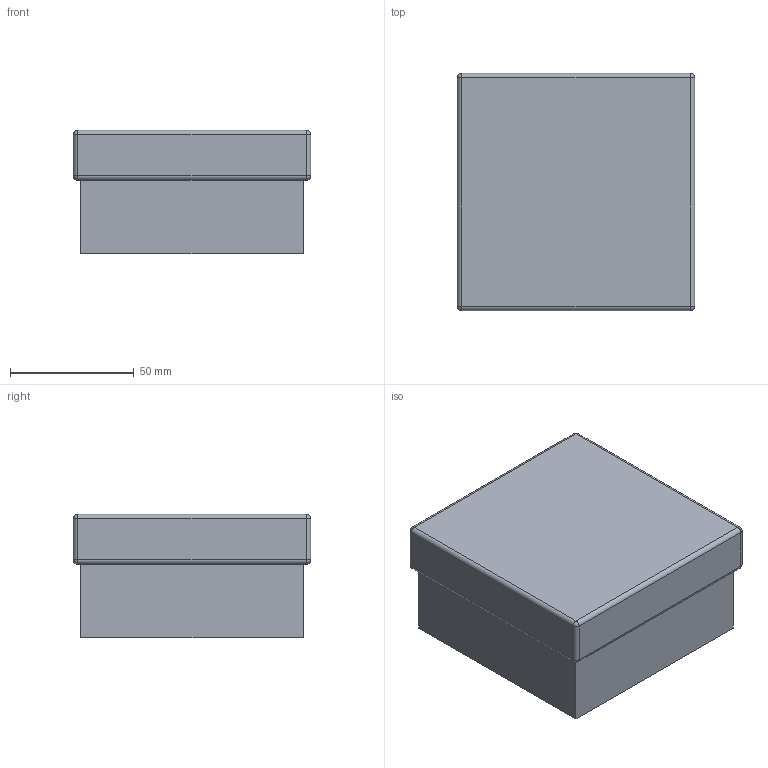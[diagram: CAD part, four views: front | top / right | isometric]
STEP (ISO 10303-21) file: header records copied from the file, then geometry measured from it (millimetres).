
FILE_DESCRIPTION((''),'2;1');
FILE_NAME('10003286453','2018-06-12T10:39:29',('mguelmi'),('Rockwell Automation'),'CREO PARAMETRIC BY PTC INC, 2017380','CREO PARAMETRIC BY PTC INC, 2017380','');
FILE_SCHEMA(('CONFIG_CONTROL_DESIGN'));
Length unit declared in the file: millimetre
Products named in the file (1): 10003286453
Bounding box: 96 x 96 x 49.9 mm (x, y, z)
Volume: 426022.2 mm3; surface area: 36236.2 mm2
Topology: 1 solids, 1 shells, 31 faces, 60 edges, 32 vertices
Faces by surface type: cylinder 12, plane 11, sphere 8
Entity records: 804 total; most frequent: DIRECTION 146, CARTESIAN_POINT 123, ORIENTED_EDGE 120, EDGE_CURVE 60, AXIS2_PLACEMENT_3D 55, VECTOR 36, LINE 36, VERTEX_POINT 32
